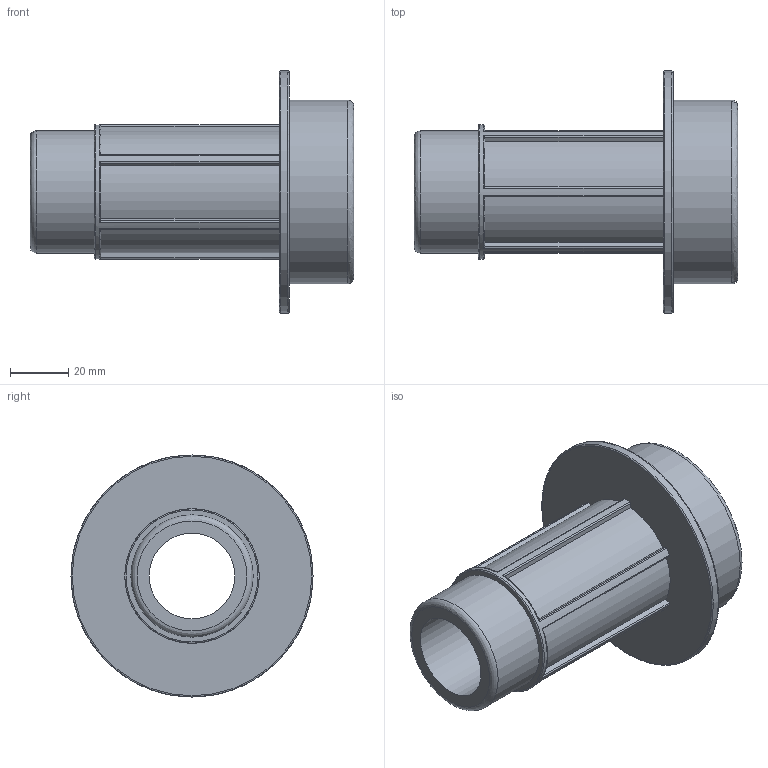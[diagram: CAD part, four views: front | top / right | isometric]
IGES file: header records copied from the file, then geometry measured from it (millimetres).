
Global section: file name: 078901063013.ipt; native system: Autodesk Inventor 2015; preprocessor: unknown; author: KIM; date: 20180409.130901; units: millimetre
Bounding box: 111 x 83 x 83 mm (x, y, z)
Volume: 132959.2 mm3; surface area: 37728.1 mm2
Topology: 1 solids, 1 shells, 57 faces, 163 edges, 111 vertices
Faces by surface type: plane 23, cylinder 22, revolution 12
Full cylindrical faces by diameter (mm): 41.91 x1, 46.101 x1, 63 x1, 83 x1
